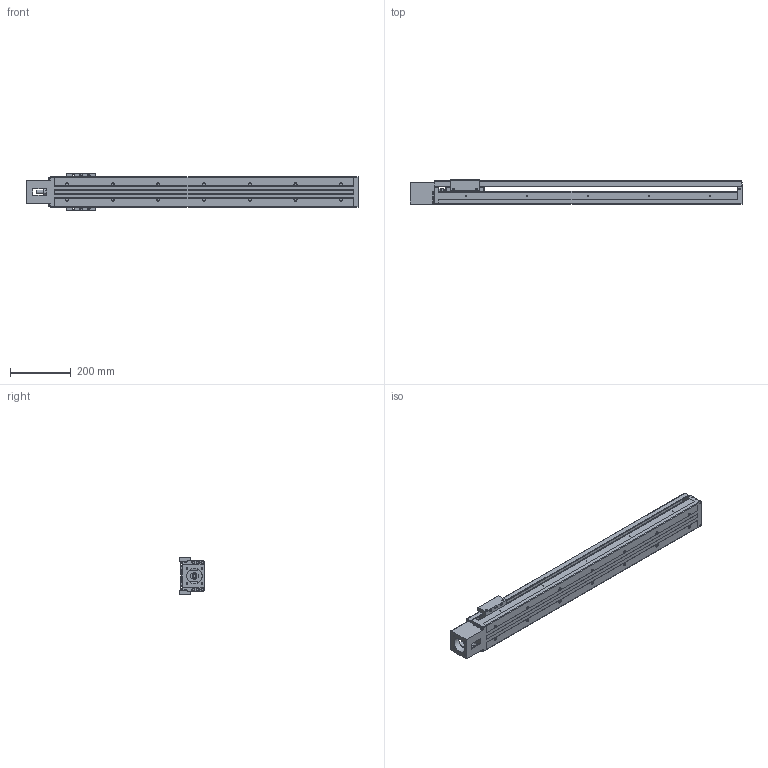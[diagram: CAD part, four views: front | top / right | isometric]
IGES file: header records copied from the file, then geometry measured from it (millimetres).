
Start section: Data from Parasolid IGES Translator 26.0.171, Copyright(c) 2006 Siemens PLM Software. All Rights Reserved.
Global section: file name: SKR5520A-0800-0-10A0 (400W00).igs; native system: By Siemens PLM Incorporated; preprocessor: XPlus GENERIC/IGES 26.0.171; author: Noname; organization: Noname; date: 20240513.084015; units: millimetre
Bounding box: 1089 x 80 x 124 mm (x, y, z)
Surface area: 821567.3 mm2 (no closed solid volume)
Topology: 0 solids, 0 shells, 769 faces, 3881 edges, 3562 vertices
Faces by surface type: extrusion 487, revolution 282
